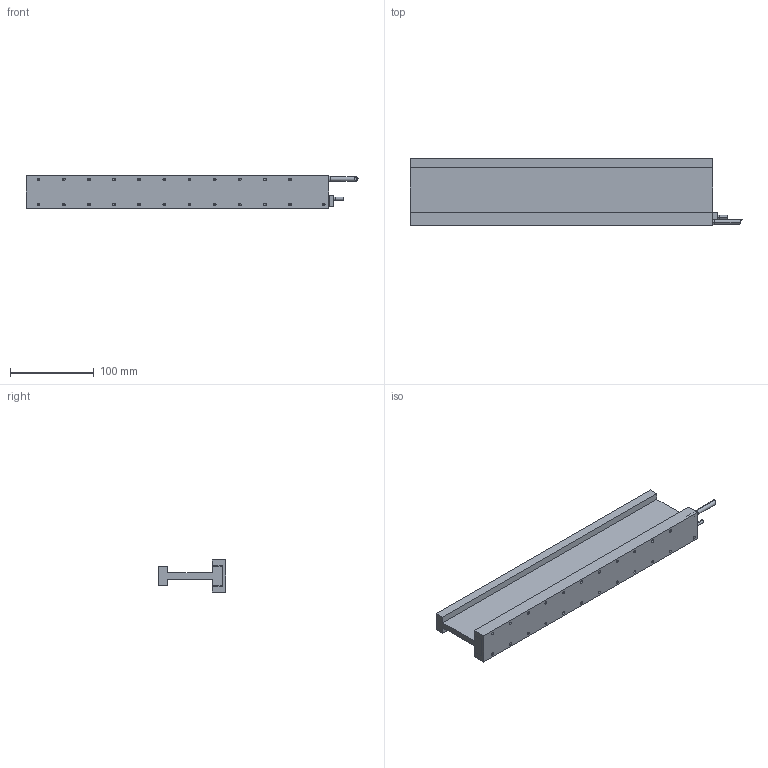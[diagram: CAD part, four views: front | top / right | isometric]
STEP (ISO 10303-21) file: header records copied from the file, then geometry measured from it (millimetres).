
FILE_DESCRIPTION (( 'STEP AP214' ), '1' );
FILE_NAME ('DX50F-C6.step', '2022-05-06T04:04:09', ( '' ), ( '' ), 'SwSTEP 2.0', 'SolidWorks 2020', '' );
FILE_SCHEMA (( 'AUTOMOTIVE_DESIGN' ));
Length unit declared in the file: millimetre
Products named in the file (1): DX50F-C6
Bounding box: 396 x 80 x 38.2 mm (x, y, z)
Volume: 445581 mm3; surface area: 138621.7 mm2
Topology: 7 solids, 7 shells, 238 faces, 564 edges, 321 vertices
Faces by surface type: plane 86, cylinder 82, cone 62, torus 8
Entity records: 9185 total; most frequent: DIRECTION 1168, CARTESIAN_POINT 1165, ORIENTED_EDGE 1020, EDGE_CURVE 510, AXIS2_PLACEMENT_3D 432, VERTEX_POINT 321, LINE 304, VECTOR 304
